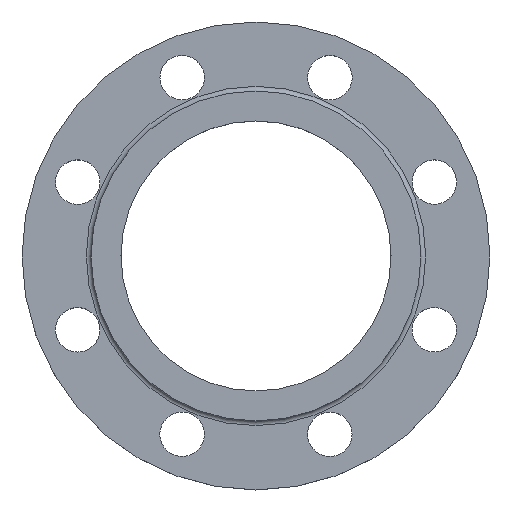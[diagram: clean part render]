
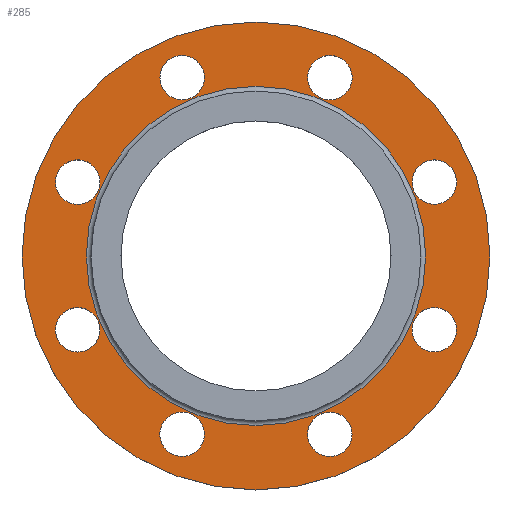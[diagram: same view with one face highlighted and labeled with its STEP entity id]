
A CAD part, top view. The second image highlights one B-rep face of the part: STEP entity #285.
In plain terms, the highlighted planar face has unit normal (0, 0, 1).
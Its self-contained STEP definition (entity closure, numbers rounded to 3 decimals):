
#45=FACE_BOUND('',#83,.T.);
#46=FACE_BOUND('',#84,.T.);
#47=FACE_BOUND('',#85,.T.);
#48=FACE_BOUND('',#86,.T.);
#49=FACE_BOUND('',#87,.T.);
#50=FACE_BOUND('',#88,.T.);
#51=FACE_BOUND('',#89,.T.);
#52=FACE_BOUND('',#90,.T.);
#53=FACE_BOUND('',#91,.T.);
#64=PLANE('',#324);
#68=FACE_OUTER_BOUND('',#82,.T.);
#82=EDGE_LOOP('',(#213,#214));
#83=EDGE_LOOP('',(#215));
#84=EDGE_LOOP('',(#216));
#85=EDGE_LOOP('',(#217));
#86=EDGE_LOOP('',(#218));
#87=EDGE_LOOP('',(#219));
#88=EDGE_LOOP('',(#220));
#89=EDGE_LOOP('',(#221));
#90=EDGE_LOOP('',(#222));
#91=EDGE_LOOP('',(#223,#224));
#114=CIRCLE('',#319,72.5);
#118=CIRCLE('',#323,72.5);
#119=CIRCLE('',#325,100.);
#120=CIRCLE('',#326,100.);
#121=CIRCLE('',#327,9.5);
#122=CIRCLE('',#328,9.5);
#123=CIRCLE('',#329,9.5);
#124=CIRCLE('',#330,9.5);
#125=CIRCLE('',#331,9.5);
#126=CIRCLE('',#332,9.5);
#127=CIRCLE('',#333,9.5);
#128=CIRCLE('',#334,9.5);
#142=VERTEX_POINT('',#458);
#143=VERTEX_POINT('',#459);
#146=VERTEX_POINT('',#468);
#147=VERTEX_POINT('',#469);
#148=VERTEX_POINT('',#472);
#149=VERTEX_POINT('',#474);
#150=VERTEX_POINT('',#476);
#151=VERTEX_POINT('',#478);
#152=VERTEX_POINT('',#480);
#153=VERTEX_POINT('',#482);
#154=VERTEX_POINT('',#484);
#155=VERTEX_POINT('',#486);
#169=EDGE_CURVE('',#142,#143,#114,.T.);
#173=EDGE_CURVE('',#143,#142,#118,.T.);
#174=EDGE_CURVE('',#146,#147,#119,.T.);
#175=EDGE_CURVE('',#147,#146,#120,.T.);
#176=EDGE_CURVE('',#148,#148,#121,.T.);
#177=EDGE_CURVE('',#149,#149,#122,.T.);
#178=EDGE_CURVE('',#150,#150,#123,.T.);
#179=EDGE_CURVE('',#151,#151,#124,.T.);
#180=EDGE_CURVE('',#152,#152,#125,.T.);
#181=EDGE_CURVE('',#153,#153,#126,.T.);
#182=EDGE_CURVE('',#154,#154,#127,.T.);
#183=EDGE_CURVE('',#155,#155,#128,.T.);
#213=ORIENTED_EDGE('',*,*,#174,.F.);
#214=ORIENTED_EDGE('',*,*,#175,.F.);
#215=ORIENTED_EDGE('',*,*,#176,.F.);
#216=ORIENTED_EDGE('',*,*,#177,.F.);
#217=ORIENTED_EDGE('',*,*,#178,.F.);
#218=ORIENTED_EDGE('',*,*,#179,.F.);
#219=ORIENTED_EDGE('',*,*,#180,.F.);
#220=ORIENTED_EDGE('',*,*,#181,.F.);
#221=ORIENTED_EDGE('',*,*,#182,.F.);
#222=ORIENTED_EDGE('',*,*,#183,.F.);
#223=ORIENTED_EDGE('',*,*,#169,.F.);
#224=ORIENTED_EDGE('',*,*,#173,.F.);
#285=ADVANCED_FACE('',(#68,#45,#46,#47,#48,#49,#50,#51,#52,#53),#64,.T.);
#319=AXIS2_PLACEMENT_3D('',#460,#364,#365);
#323=AXIS2_PLACEMENT_3D('',#466,#372,#373);
#324=AXIS2_PLACEMENT_3D('',#467,#374,#375);
#325=AXIS2_PLACEMENT_3D('',#470,#376,#377);
#326=AXIS2_PLACEMENT_3D('',#471,#378,#379);
#327=AXIS2_PLACEMENT_3D('',#473,#380,#381);
#328=AXIS2_PLACEMENT_3D('',#475,#382,#383);
#329=AXIS2_PLACEMENT_3D('',#477,#384,#385);
#330=AXIS2_PLACEMENT_3D('',#479,#386,#387);
#331=AXIS2_PLACEMENT_3D('',#481,#388,#389);
#332=AXIS2_PLACEMENT_3D('',#483,#390,#391);
#333=AXIS2_PLACEMENT_3D('',#485,#392,#393);
#334=AXIS2_PLACEMENT_3D('',#487,#394,#395);
#364=DIRECTION('center_axis',(0.,0.,1.));
#365=DIRECTION('ref_axis',(-1.,0.,0.));
#372=DIRECTION('center_axis',(0.,0.,1.));
#373=DIRECTION('ref_axis',(-1.,0.,0.));
#374=DIRECTION('center_axis',(0.,0.,1.));
#375=DIRECTION('ref_axis',(1.,0.,0.));
#376=DIRECTION('center_axis',(0.,0.,-1.));
#377=DIRECTION('ref_axis',(1.,0.,0.));
#378=DIRECTION('center_axis',(0.,0.,-1.));
#379=DIRECTION('ref_axis',(1.,0.,0.));
#380=DIRECTION('center_axis',(0.,0.,1.));
#381=DIRECTION('ref_axis',(1.,0.,0.));
#382=DIRECTION('center_axis',(0.,0.,1.));
#383=DIRECTION('ref_axis',(0.707,0.707,0.));
#384=DIRECTION('center_axis',(0.,0.,1.));
#385=DIRECTION('ref_axis',(0.,1.,0.));
#386=DIRECTION('center_axis',(0.,0.,1.));
#387=DIRECTION('ref_axis',(-0.707,0.707,0.));
#388=DIRECTION('center_axis',(0.,0.,1.));
#389=DIRECTION('ref_axis',(-1.,0.,0.));
#390=DIRECTION('center_axis',(0.,0.,1.));
#391=DIRECTION('ref_axis',(-0.707,-0.707,0.));
#392=DIRECTION('center_axis',(0.,0.,1.));
#393=DIRECTION('ref_axis',(0.,-1.,0.));
#394=DIRECTION('center_axis',(0.,0.,1.));
#395=DIRECTION('ref_axis',(0.707,-0.707,0.));
#458=CARTESIAN_POINT('',(72.5,0.,14.));
#459=CARTESIAN_POINT('',(-72.5,0.,14.));
#460=CARTESIAN_POINT('Origin',(0.,0.,14.));
#466=CARTESIAN_POINT('Origin',(0.,0.,14.));
#467=CARTESIAN_POINT('Origin',(0.,0.,14.));
#468=CARTESIAN_POINT('',(100.,0.,14.));
#469=CARTESIAN_POINT('',(-100.,0.,14.));
#470=CARTESIAN_POINT('Origin',(0.,0.,14.));
#471=CARTESIAN_POINT('Origin',(0.,0.,14.));
#472=CARTESIAN_POINT('',(-41.071,76.22,14.));
#473=CARTESIAN_POINT('Origin',(-31.571,76.22,14.));
#474=CARTESIAN_POINT('',(-82.938,24.854,14.));
#475=CARTESIAN_POINT('Origin',(-76.22,31.571,14.));
#476=CARTESIAN_POINT('',(-76.22,-41.071,14.));
#477=CARTESIAN_POINT('Origin',(-76.22,-31.571,14.));
#478=CARTESIAN_POINT('',(-24.854,-82.938,14.));
#479=CARTESIAN_POINT('Origin',(-31.571,-76.22,14.));
#480=CARTESIAN_POINT('',(41.071,-76.22,14.));
#481=CARTESIAN_POINT('Origin',(31.571,-76.22,14.));
#482=CARTESIAN_POINT('',(82.938,-24.854,14.));
#483=CARTESIAN_POINT('Origin',(76.22,-31.571,14.));
#484=CARTESIAN_POINT('',(76.22,41.071,14.));
#485=CARTESIAN_POINT('Origin',(76.22,31.571,14.));
#486=CARTESIAN_POINT('',(24.854,82.938,14.));
#487=CARTESIAN_POINT('Origin',(31.571,76.22,14.));
